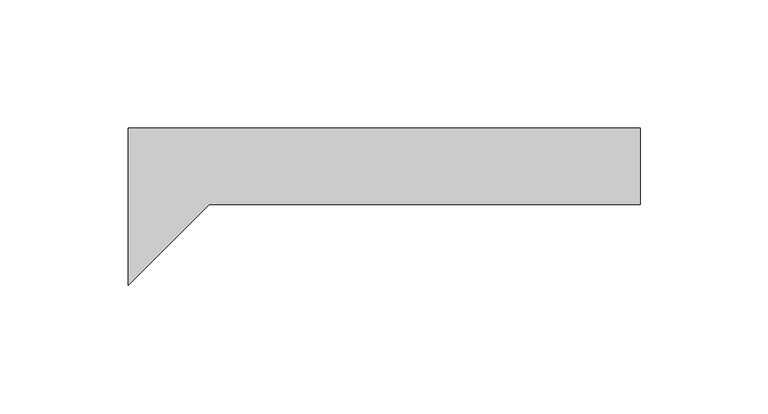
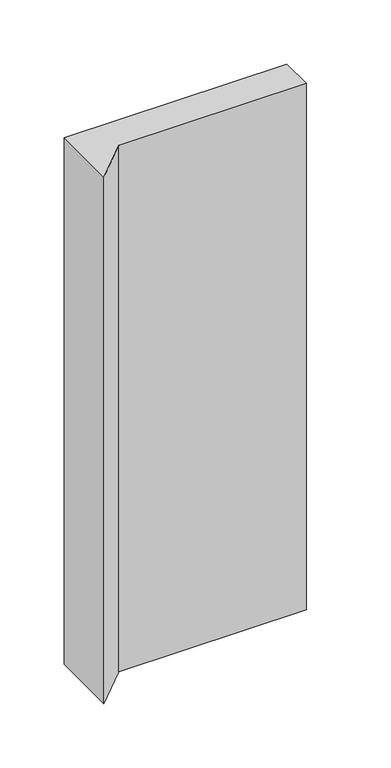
"""IFC4 building model written with IfcOpenShell, lengths in millimetres: plate geometry, ATELIERS 3S_EPURE CDB 200_VERTICAL : AZURO."""

from ifc_helpers import new_model, si_unit, origin, origin_with_axes, place, context, project, spatial, polyline, outline, extrude, source, transform, mapped, element, save


def plate_d3c6564b(model_context):
    return source(origin(), model_context, "Body", "SweptSolid", [
        extrude(outline(polyline([(99.9999998, -29.9980469), (-68.292885, -29.9980469), (-100.0000002, -61.705162), (-100.0000002, 0.0), (99.9999998, 0.0), (99.9999998, -29.9980469)])), origin_with_axes(), (0.0, 0.0, 1.0), 500.0),
    ])


if __name__ == "__main__":
    model = new_model("IFC4")
    model_context = context("Model", 3, world=origin())
    ifc_project = project(units=[si_unit("LENGTHUNIT", "METRE", prefix="MILLI")], contexts=[model_context])
    site = spatial("IfcSite", under=ifc_project)
    building = spatial("IfcBuilding", under=site)
    placement = place(None, origin())
    plate_shape = plate_d3c6564b(model_context)
    element("IfcPlate", 1, ObjectType="ATELIERS 3S_EPURE CDB 200_VERTICAL : AZURO", at=placement, inside=building, context=model_context, shape_type="MappedRepresentation", body=[
        mapped(plate_shape, transform((0.0, 0.0, 0.0), x_axis=(1.0, 0.0, 0.0), y_axis=(0.0, 1.0, 0.0), z_axis=(0.0, 0.0, 1.0))),
    ])
    save(model, "model.ifc")
